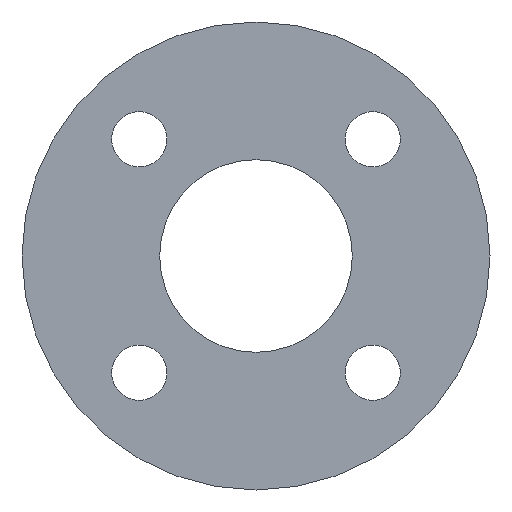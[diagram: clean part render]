
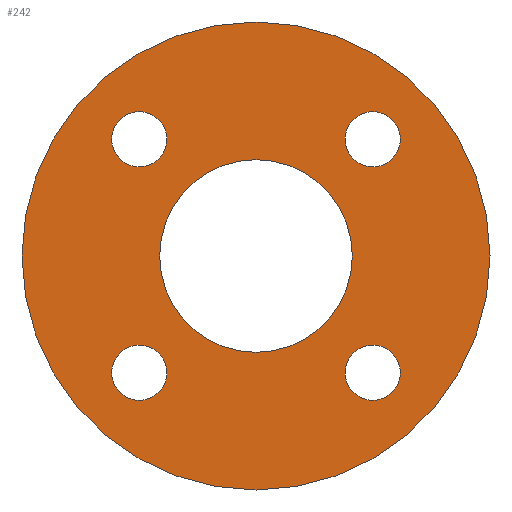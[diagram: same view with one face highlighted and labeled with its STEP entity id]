
A CAD part, left-side view. The second image highlights one B-rep face of the part: STEP entity #242.
In plain terms, the highlighted planar face has unit normal (-1, 0, 0).
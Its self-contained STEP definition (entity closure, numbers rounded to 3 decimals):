
#1 = EDGE_LOOP ( 'NONE', ( #186 ) ) ;
#7 = CARTESIAN_POINT ( 'NONE',  ( 0., 0., 0. ) ) ;
#12 = DIRECTION ( 'NONE',  ( 1., 0., 0. ) ) ;
#17 = DIRECTION ( 'NONE',  ( 0., 0., -1. ) ) ;
#20 = DIRECTION ( 'NONE',  ( 1., 0., 0. ) ) ;
#21 = CARTESIAN_POINT ( 'NONE',  ( 0., 0., 0. ) ) ;
#23 = FACE_BOUND ( 'NONE', #1, .T. ) ;
#24 = DIRECTION ( 'NONE',  ( 0., 0., -1. ) ) ;
#29 = EDGE_LOOP ( 'NONE', ( #69 ) ) ;
#33 = EDGE_CURVE ( 'NONE', #178, #178, #268, .T. ) ;
#34 = CARTESIAN_POINT ( 'NONE',  ( 0., -8.485, -8.485 ) ) ;
#36 = DIRECTION ( 'NONE',  ( 1., 0., 0. ) ) ;
#37 = DIRECTION ( 'NONE',  ( 0., 0., -1. ) ) ;
#39 = DIRECTION ( 'NONE',  ( 0., 0., -1. ) ) ;
#40 = DIRECTION ( 'NONE',  ( 0., 0., -1. ) ) ;
#41 = AXIS2_PLACEMENT_3D ( 'NONE', #103, #20, #17 ) ;
#43 = DIRECTION ( 'NONE',  ( 1., 0., 0. ) ) ;
#44 = CARTESIAN_POINT ( 'NONE',  ( 0., 0., 0. ) ) ;
#46 = EDGE_CURVE ( 'NONE', #188, #188, #161, .T. ) ;
#51 = CARTESIAN_POINT ( 'NONE',  ( 0., -8.485, 6.485 ) ) ;
#57 = VERTEX_POINT ( 'NONE', #66 ) ;
#60 = CARTESIAN_POINT ( 'NONE',  ( 0., 8.485, 6.485 ) ) ;
#61 = CARTESIAN_POINT ( 'NONE',  ( 0., 8.485, -10.485 ) ) ;
#66 = CARTESIAN_POINT ( 'NONE',  ( 0., 0., -7. ) ) ;
#67 = CARTESIAN_POINT ( 'NONE',  ( 0., 0., -17. ) ) ;
#69 = ORIENTED_EDGE ( 'NONE', *, *, #208, .F. ) ;
#72 = DIRECTION ( 'NONE',  ( 0., 0., -1. ) ) ;
#75 = CARTESIAN_POINT ( 'NONE',  ( 0., 8.485, -8.485 ) ) ;
#79 = CARTESIAN_POINT ( 'NONE',  ( 0., -8.485, -10.485 ) ) ;
#84 = ORIENTED_EDGE ( 'NONE', *, *, #46, .T. ) ;
#103 = CARTESIAN_POINT ( 'NONE',  ( 0., -8.485, 8.485 ) ) ;
#106 = CIRCLE ( 'NONE', #248, 17. ) ;
#107 = AXIS2_PLACEMENT_3D ( 'NONE', #44, #43, #40 ) ;
#129 = DIRECTION ( 'NONE',  ( 1., 0., 0. ) ) ;
#135 = VERTEX_POINT ( 'NONE', #61 ) ;
#136 = ORIENTED_EDGE ( 'NONE', *, *, #264, .T. ) ;
#142 = ORIENTED_EDGE ( 'NONE', *, *, #162, .T. ) ;
#153 = FACE_OUTER_BOUND ( 'NONE', #29, .T. ) ;
#156 = CIRCLE ( 'NONE', #107, 7. ) ;
#159 = VERTEX_POINT ( 'NONE', #67 ) ;
#161 = CIRCLE ( 'NONE', #171, 2. ) ;
#162 = EDGE_CURVE ( 'NONE', #135, #135, #221, .T. ) ;
#163 = AXIS2_PLACEMENT_3D ( 'NONE', #7, #12, #24 ) ;
#166 = PLANE ( 'NONE',  #163 ) ;
#168 = EDGE_LOOP ( 'NONE', ( #136 ) ) ;
#170 = VERTEX_POINT ( 'NONE', #79 ) ;
#171 = AXIS2_PLACEMENT_3D ( 'NONE', #266, #129, #39 ) ;
#178 = VERTEX_POINT ( 'NONE', #51 ) ;
#180 = AXIS2_PLACEMENT_3D ( 'NONE', #75, #252, #255 ) ;
#186 = ORIENTED_EDGE ( 'NONE', *, *, #33, .T. ) ;
#187 = EDGE_LOOP ( 'NONE', ( #142 ) ) ;
#188 = VERTEX_POINT ( 'NONE', #60 ) ;
#192 = ORIENTED_EDGE ( 'NONE', *, *, #202, .T. ) ;
#197 = EDGE_LOOP ( 'NONE', ( #84 ) ) ;
#202 = EDGE_CURVE ( 'NONE', #57, #57, #156, .T. ) ;
#204 = DIRECTION ( 'NONE',  ( 1., 0., 0. ) ) ;
#206 = FACE_BOUND ( 'NONE', #187, .T. ) ;
#208 = EDGE_CURVE ( 'NONE', #159, #159, #106, .T. ) ;
#221 = CIRCLE ( 'NONE', #180, 2. ) ;
#222 = EDGE_LOOP ( 'NONE', ( #192 ) ) ;
#227 = FACE_BOUND ( 'NONE', #197, .T. ) ;
#228 = AXIS2_PLACEMENT_3D ( 'NONE', #34, #36, #37 ) ;
#242 = ADVANCED_FACE ( 'NONE', ( #23, #227, #206, #245, #270, #153 ), #166, .F. ) ;
#245 = FACE_BOUND ( 'NONE', #168, .T. ) ;
#248 = AXIS2_PLACEMENT_3D ( 'NONE', #21, #204, #72 ) ;
#252 = DIRECTION ( 'NONE',  ( 1., 0., 0. ) ) ;
#253 = CIRCLE ( 'NONE', #228, 2. ) ;
#255 = DIRECTION ( 'NONE',  ( 0., 0., -1. ) ) ;
#264 = EDGE_CURVE ( 'NONE', #170, #170, #253, .T. ) ;
#266 = CARTESIAN_POINT ( 'NONE',  ( 0., 8.485, 8.485 ) ) ;
#268 = CIRCLE ( 'NONE', #41, 2. ) ;
#270 = FACE_BOUND ( 'NONE', #222, .T. ) ;
